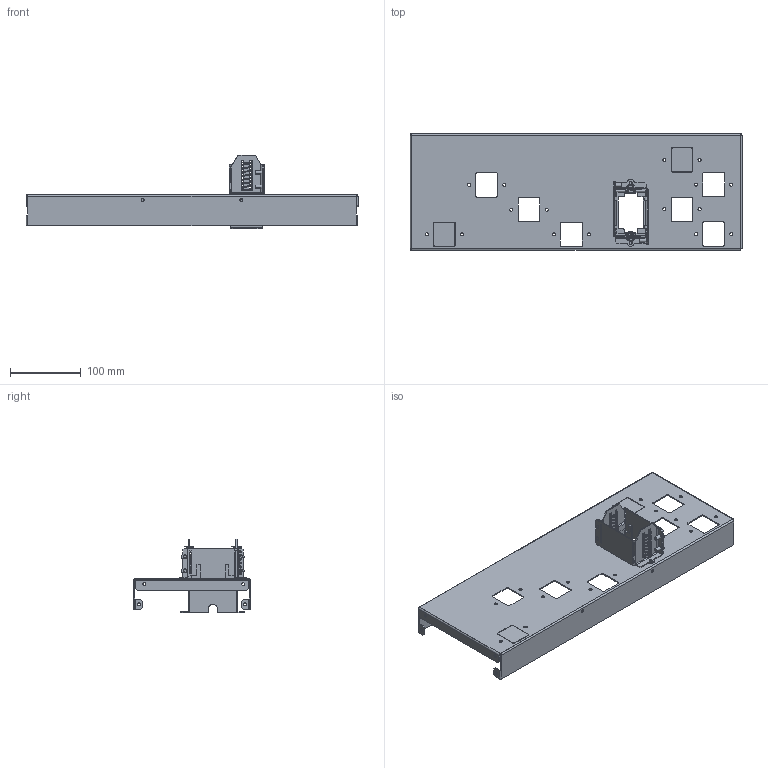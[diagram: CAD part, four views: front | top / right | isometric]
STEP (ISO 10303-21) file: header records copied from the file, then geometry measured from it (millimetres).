
FILE_DESCRIPTION(('CAx-IF Rec.Pracs.---Model Styling and Organization---1.2---2011-12-15','CAx-IF Rec.Pracs.---Geometric and Assembly Validation Properties---4.1---2014-06-16','CAx-IF Rec.Pracs.---PMI Polyline Presentation---2.0---2013-05-24'),'2;1');
FILE_NAME('R5M2W4M1BR22.stp','2021-05-05T12:21:00+03:00',(''),(''),'STEP Interface 4.4 by CT CoreTechnologie','3D_Evolution4.4 by CT CoreTechnologie','');
FILE_SCHEMA(('AUTOMOTIVE_DESIGN { 1 0 10303 214 1 1 1 1 }'));
Length unit declared in the file: millimetre
Products named in the file (8): R5M2W4M1BR22; RB.1765.00.00.0 ÑÁ; RB.1570.00.00.0; RB.1569.00.00.1_-00; RB.1571.00.00.0_In prestressed condition - 40 mm; M5x8-DIN7500C_stright; RB.1506.00.00.0_-03; RB.1567.00.00.0_-00
Assembly tree (13 placements, depth 3):
  R5M2W4M1BR22
    RB.1765.00.00.0 ÑÁ
      RB.1570.00.00.0  x2
      RB.1569.00.00.1_-00  x2
      RB.1571.00.00.0_In prestressed condition - 40 mm  x2
      M5x8-DIN7500C_stright  x4
    RB.1506.00.00.0_-03
    RB.1567.00.00.0_-00
Bounding box: 470 x 165 x 103.8 mm (x, y, z)
Surface area: 290961.8 mm2 (no closed solid volume)
Topology: 0 solids, 20 shells, 704 faces, 1879 edges, 1215 vertices
Faces by surface type: plane 456, cylinder 220, bspline 28
Entity records: 18250 total; most frequent: CARTESIAN_POINT 4406, ORIENTED_EDGE 2778, DIRECTION 2769, EDGE_CURVE 1389, VECTOR 1009, LINE 1009, VERTEX_POINT 897, AXIS2_PLACEMENT_3D 880
